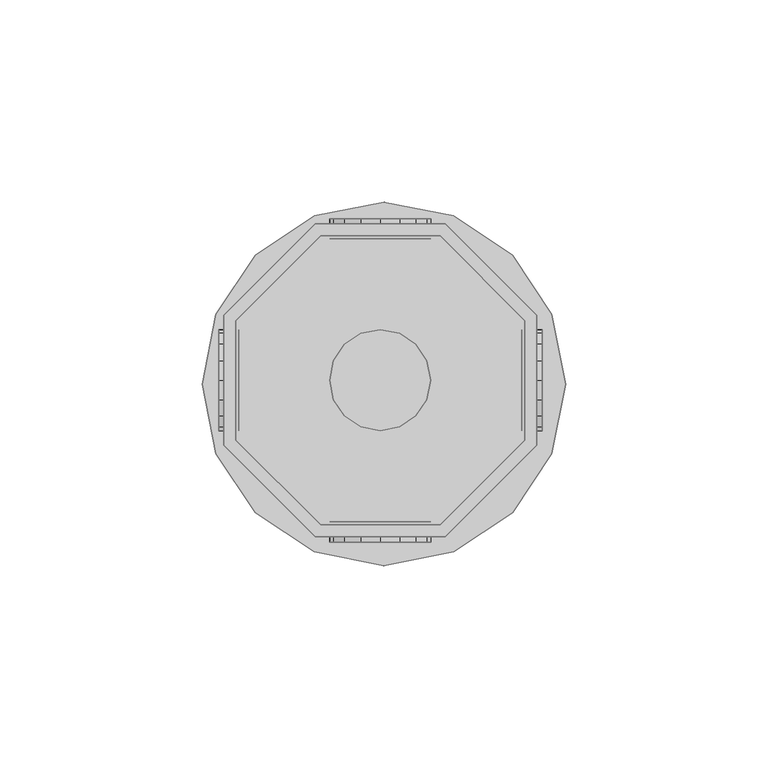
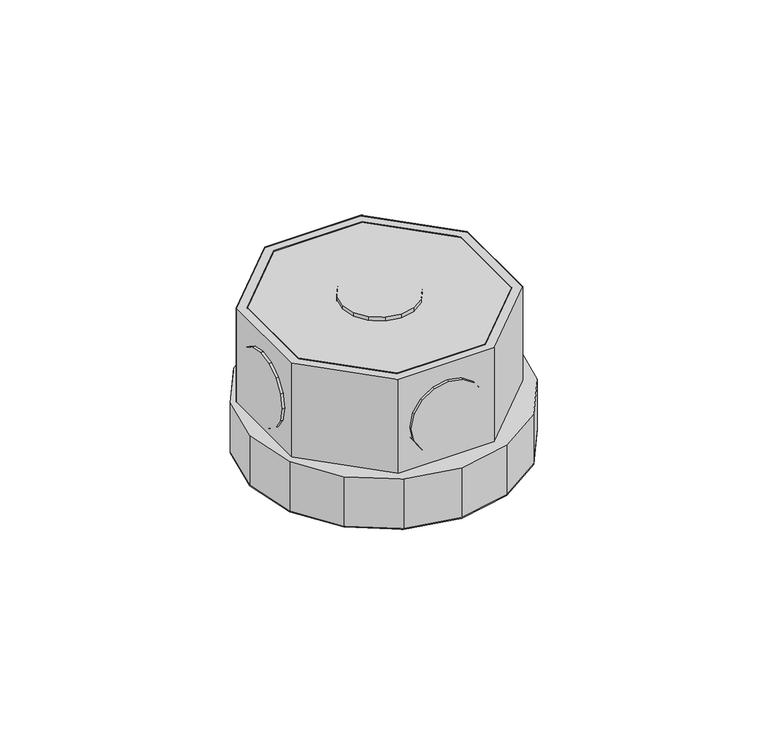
"""IFC4 building model written with IfcOpenShell, lengths in millimetres: light fixture geometry,  213590 :  213590."""

from ifc_helpers import new_model, si_unit, origin, place, context, project, spatial, triangles, source, transform, mapped, element, save


def light_fixture_066294f1(model_context):
    return source(origin(), model_context, "Body", "Tessellation", [
        triangles([(5265.0001419, 16192.9999695, 2924.5999741), (5235.4002045, 16192.9999695, 2975.400071), (5235.4002045, 16192.9999695, 2924.5999741), (5265.0001419, 16192.9999695, 2975.400071), (5266.2000687, 16118.4998657, 2924.5999741), (5234.1002838, 16118.4998657, 2975.400071), (5234.1002838, 16118.4998657, 2924.5999741), (5266.2000687, 16118.4998657, 2975.400071), (5214.3997421, 16172.0000885, 2975.400071), (5214.3997421, 16172.0000885, 2924.5999741), (5288.8998459, 16141.1996429, 2924.5999741), (5288.8998459, 16141.1996429, 2975.400071), (5214.3997421, 16142.3995697, 2975.400071), (5214.3997421, 16142.3995697, 2924.5999741), (5288.8998459, 16173.3000092, 2924.5999741), (5288.8998459, 16173.3000092, 2975.400071), (5235.4002045, 16121.4996826, 2975.400071), (5235.4002045, 16121.4996826, 2924.5999741), (5266.2000687, 16195.9997864, 2924.5999741), (5266.2000687, 16195.9997864, 2975.400071), (5265.0001419, 16121.4996826, 2924.5999741), (5265.0001419, 16121.4996826, 2975.400071), (5234.1002838, 16195.9997864, 2975.400071), (5234.1002838, 16195.9997864, 2924.5999741), (5285.900029, 16142.3995697, 2924.5999741), (5285.900029, 16142.3995697, 2975.400071), (5211.3999252, 16173.3000092, 2975.400071), (5211.3999252, 16173.3000092, 2924.5999741), (5211.3999252, 16141.1996429, 2975.400071), (5285.900029, 16172.0000885, 2975.400071), (5285.900029, 16172.0000885, 2924.5999741), (5211.3999252, 16141.1996429, 2924.5999741), (5214.3997421, 16142.3995697, 2972.3999634), (5235.4002045, 16121.4996826, 2972.3999634), (5265.0001419, 16121.4996826, 2972.3999634), (5285.900029, 16142.3995697, 2972.3999634), (5285.900029, 16172.0000885, 2972.3999634), (5265.0001419, 16192.9999695, 2972.3999634), (5235.4002045, 16192.9999695, 2972.3999634), (5214.3997421, 16172.0000885, 2972.3999634), (5211.3999252, 16173.3000092, 2942.4000504), (5234.1002838, 16195.9997864, 2942.4000504), (5266.2000687, 16195.9997864, 2942.4000504), (5288.8998459, 16173.3000092, 2942.4000504), (5288.8998459, 16141.1996429, 2942.4000504), (5266.2000687, 16118.4998657, 2942.4000504), (5234.1002838, 16118.4998657, 2942.4000504), (5211.3999252, 16141.1996429, 2942.4000504), (5233.7997208, 16114.8000916, 2942.4000504), (5209.5000412, 16139.0997711, 2942.4000504), (5219.2000305, 16124.4994995, 2942.4000504), (5206.1002487, 16156.299884, 2942.4000504), (5209.5000412, 16173.5999908, 2942.4000504), (5219.2000305, 16188.2002625, 2942.4000504), (5233.7997208, 16197.8996704, 2942.4000504), (5251.0998276, 16201.2994629, 2942.4000504), (5268.2999405, 16197.8996704, 2942.4000504), (5292.6002014, 16173.5999908, 2942.4000504), (5282.9002121, 16188.2002625, 2942.4000504), (5251.0998276, 16111.3003052, 2942.4000504), (5268.2999405, 16114.8000916, 2942.4000504), (5282.9002121, 16124.4994995, 2942.4000504), (5292.6002014, 16139.0997711, 2942.4000504), (5296.0999878, 16156.299884, 2942.4000504), (5209.5000412, 16139.0997711, 2924.5999741), (5233.7997208, 16114.8000916, 2924.5999741), (5219.2000305, 16124.4994995, 2924.5999741), (5206.1002487, 16156.299884, 2924.5999741), (5209.5000412, 16173.5999908, 2924.5999741), (5219.2000305, 16188.2002625, 2924.5999741), (5233.7997208, 16197.8996704, 2924.5999741), (5251.0998276, 16201.2994629, 2924.5999741), (5268.2999405, 16197.8996704, 2924.5999741), (5292.6002014, 16173.5999908, 2924.5999741), (5282.9002121, 16188.2002625, 2924.5999741), (5251.0998276, 16111.3003052, 2924.5999741), (5268.2999405, 16114.8000916, 2924.5999741), (5282.9002121, 16124.4994995, 2924.5999741), (5292.6002014, 16139.0997711, 2924.5999741), (5296.0999878, 16156.299884, 2924.5999741), (5238.6000092, 16197.1997131, 2952.6000092), (5245.4001755, 16197.1997131, 2945.9001274), (5241.2998444, 16197.1997131, 2948.5999626), (5237.7000641, 16197.1997131, 2957.4000069), (5250.1998825, 16197.1997131, 2944.8998978), (5238.6000092, 16197.1997131, 2962.2000046), (5255.0001709, 16197.1997131, 2945.9001274), (5241.2998444, 16197.1997131, 2966.2000511), (5258.9999268, 16197.1997131, 2948.5999626), (5245.4001755, 16197.1997131, 2968.8998863), (5261.699762, 16197.1997131, 2952.6000092), (5250.1998825, 16197.1997131, 2969.900116), (5262.7002823, 16197.1997131, 2957.4000069), (5255.0001709, 16197.1997131, 2968.8998863), (5261.699762, 16197.1997131, 2962.2000046), (5258.9999268, 16197.1997131, 2966.2000511), (5245.4001755, 16192.2000183, 2945.9001274), (5238.6000092, 16192.2000183, 2952.6000092), (5241.2998444, 16192.2000183, 2948.5999626), (5250.1998825, 16192.2000183, 2944.8998978), (5237.7000641, 16192.2000183, 2957.4000069), (5255.0001709, 16192.2000183, 2945.9001274), (5238.6000092, 16192.2000183, 2962.2000046), (5258.9999268, 16192.2000183, 2948.5999626), (5241.2998444, 16192.2000183, 2966.2000511), (5245.4001755, 16192.2000183, 2968.8998863), (5261.699762, 16192.2000183, 2952.6000092), (5250.1998825, 16192.2000183, 2969.900116), (5262.7002823, 16192.2000183, 2957.4000069), (5255.0001709, 16192.2000183, 2968.8998863), (5261.699762, 16192.2000183, 2962.2000046), (5258.9999268, 16192.2000183, 2966.2000511), (5238.6000092, 16122.1996399, 2952.6000092), (5245.4001755, 16122.1996399, 2945.9001274), (5241.2998444, 16122.1996399, 2948.5999626), (5237.7000641, 16122.1996399, 2957.4000069), (5250.1998825, 16122.1996399, 2944.8998978), (5238.6000092, 16122.1996399, 2962.2000046), (5255.0001709, 16122.1996399, 2945.9001274), (5241.2998444, 16122.1996399, 2966.2000511), (5258.9999268, 16122.1996399, 2948.5999626), (5245.4001755, 16122.1996399, 2968.8998863), (5261.699762, 16122.1996399, 2952.6000092), (5250.1998825, 16122.1996399, 2969.900116), (5262.7002823, 16122.1996399, 2957.4000069), (5255.0001709, 16122.1996399, 2968.8998863), (5261.699762, 16122.1996399, 2962.2000046), (5258.9999268, 16122.1996399, 2966.2000511), (5245.4001755, 16117.1999451, 2945.9001274), (5238.6000092, 16117.1999451, 2952.6000092), (5241.2998444, 16117.1999451, 2948.5999626), (5250.1998825, 16117.1999451, 2944.8998978), (5237.7000641, 16117.1999451, 2957.4000069), (5255.0001709, 16117.1999451, 2945.9001274), (5238.6000092, 16117.1999451, 2962.2000046), (5258.9999268, 16117.1999451, 2948.5999626), (5241.2998444, 16117.1999451, 2966.2000511), (5245.4001755, 16117.1999451, 2968.8998863), (5261.699762, 16117.1999451, 2952.6000092), (5250.1998825, 16117.1999451, 2969.900116), (5262.7002823, 16117.1999451, 2957.4000069), (5255.0001709, 16117.1999451, 2968.8998863), (5261.699762, 16117.1999451, 2962.2000046), (5258.9999268, 16117.1999451, 2966.2000511), (5215.2002747, 16152.4001221, 2945.9001274), (5215.2002747, 16145.700531, 2952.6000092), (5215.2002747, 16148.4003662, 2948.5999626), (5215.2002747, 16157.1998291, 2944.8998978), (5215.2002747, 16144.6994293, 2957.4000069), (5215.2002747, 16161.9995361, 2945.9001274), (5215.2002747, 16145.700531, 2962.2000046), (5215.2002747, 16166.1004486, 2948.5999626), (5215.2002747, 16148.4003662, 2966.2000511), (5215.2002747, 16152.4001221, 2968.8998863), (5215.2002747, 16168.8002838, 2952.6000092), (5215.2002747, 16157.1998291, 2969.900116), (5215.2002747, 16169.7002289, 2957.4000069), (5215.2002747, 16161.9995361, 2968.8998863), (5215.2002747, 16168.8002838, 2962.2000046), (5215.2002747, 16166.1004486, 2966.2000511), (5210.1999985, 16145.700531, 2952.6000092), (5210.1999985, 16152.4001221, 2945.9001274), (5210.1999985, 16148.4003662, 2948.5999626), (5210.1999985, 16144.6994293, 2957.4000069), (5210.1999985, 16157.1998291, 2944.8998978), (5210.1999985, 16145.700531, 2962.2000046), (5210.1999985, 16161.9995361, 2945.9001274), (5210.1999985, 16148.4003662, 2966.2000511), (5210.1999985, 16166.1004486, 2948.5999626), (5210.1999985, 16152.4001221, 2968.8998863), (5210.1999985, 16168.8002838, 2952.6000092), (5210.1999985, 16157.1998291, 2969.900116), (5210.1999985, 16169.7002289, 2957.4000069), (5210.1999985, 16161.9995361, 2968.8998863), (5210.1999985, 16168.8002838, 2962.2000046), (5210.1999985, 16166.1004486, 2966.2000511), (5290.1997665, 16152.4001221, 2945.9001274), (5290.1997665, 16145.700531, 2952.6000092), (5290.1997665, 16148.4003662, 2948.5999626), (5290.1997665, 16157.1998291, 2944.8998978), (5290.1997665, 16144.6994293, 2957.4000069), (5290.1997665, 16161.9995361, 2945.9001274), (5290.1997665, 16145.700531, 2962.2000046), (5290.1997665, 16166.1004486, 2948.5999626), (5290.1997665, 16148.4003662, 2966.2000511), (5290.1997665, 16152.4001221, 2968.8998863), (5290.1997665, 16168.8002838, 2952.6000092), (5290.1997665, 16157.1998291, 2969.900116), (5290.1997665, 16169.7002289, 2957.4000069), (5290.1997665, 16161.9995361, 2968.8998863), (5290.1997665, 16168.8002838, 2962.2000046), (5290.1997665, 16166.1004486, 2966.2000511), (5285.2000717, 16145.700531, 2952.6000092), (5285.2000717, 16152.4001221, 2945.9001274), (5285.2000717, 16148.4003662, 2948.5999626), (5285.2000717, 16144.6994293, 2957.4000069), (5285.2000717, 16157.1998291, 2944.8998978), (5285.2000717, 16145.700531, 2962.2000046), (5285.2000717, 16161.9995361, 2945.9001274), (5285.2000717, 16148.4003662, 2966.2000511), (5285.2000717, 16166.1004486, 2948.5999626), (5285.2000717, 16152.4001221, 2968.8998863), (5285.2000717, 16168.8002838, 2952.6000092), (5285.2000717, 16157.1998291, 2969.900116), (5285.2000717, 16169.7002289, 2957.4000069), (5285.2000717, 16161.9995361, 2968.8998863), (5285.2000717, 16168.8002838, 2962.2000046), (5285.2000717, 16166.1004486, 2966.2000511), (5245.4001755, 16145.700531, 2976.9999733), (5238.6000092, 16152.4001221, 2976.9999733), (5241.2998444, 16148.4003662, 2976.9999733), (5237.7000641, 16157.1998291, 2976.9999733), (5250.1998825, 16144.6994293, 2976.9999733), (5238.6000092, 16161.9995361, 2976.9999733), (5255.0001709, 16145.700531, 2976.9999733), (5241.2998444, 16166.1004486, 2976.9999733), (5258.9999268, 16148.4003662, 2976.9999733), (5245.4001755, 16168.8002838, 2976.9999733), (5261.699762, 16152.4001221, 2976.9999733), (5250.1998825, 16169.7002289, 2976.9999733), (5262.7002823, 16157.1998291, 2976.9999733), (5255.0001709, 16168.8002838, 2976.9999733), (5261.699762, 16161.9995361, 2976.9999733), (5258.9999268, 16166.1004486, 2976.9999733), (5238.6000092, 16152.4001221, 2971.9999878), (5245.4001755, 16145.700531, 2971.9999878), (5241.2998444, 16148.4003662, 2971.9999878), (5237.7000641, 16157.1998291, 2971.9999878), (5250.1998825, 16144.6994293, 2971.9999878), (5238.6000092, 16161.9995361, 2971.9999878), (5255.0001709, 16145.700531, 2971.9999878), (5241.2998444, 16166.1004486, 2971.9999878), (5258.9999268, 16148.4003662, 2971.9999878), (5245.4001755, 16168.8002838, 2971.9999878), (5261.699762, 16152.4001221, 2971.9999878), (5250.1998825, 16169.7002289, 2971.9999878), (5262.7002823, 16157.1998291, 2971.9999878), (5255.0001709, 16168.8002838, 2971.9999878), (5261.699762, 16161.9995361, 2971.9999878), (5258.9999268, 16166.1004486, 2971.9999878)], [[1, 2, 3], [2, 1, 4], [5, 6, 7], [6, 5, 8], [3, 9, 10], [9, 3, 2], [11, 8, 5], [8, 11, 12], [10, 13, 14], [13, 10, 9], [15, 12, 11], [12, 15, 16], [14, 17, 18], [17, 14, 13], [19, 16, 15], [16, 19, 20], [17, 21, 18], [21, 17, 22], [23, 19, 24], [19, 23, 20], [22, 25, 21], [25, 22, 26], [27, 24, 28], [24, 27, 23], [6, 13, 29], [29, 13, 27], [27, 13, 9], [27, 9, 23], [23, 9, 2], [23, 2, 4], [23, 4, 20], [20, 4, 30], [8, 17, 6], [6, 17, 13], [17, 8, 22], [12, 22, 8], [22, 12, 26], [30, 26, 12], [16, 30, 12], [20, 30, 16], [30, 1, 31], [1, 30, 4], [6, 32, 7], [32, 6, 29], [32, 14, 7], [28, 14, 32], [14, 28, 10], [24, 10, 28], [10, 24, 3], [1, 3, 24], [19, 1, 24], [31, 1, 19], [7, 18, 5], [14, 18, 7], [5, 18, 21], [5, 21, 11], [11, 21, 25], [11, 25, 31], [11, 31, 15], [15, 31, 19], [26, 31, 25], [31, 26, 30], [29, 28, 32], [28, 29, 27], [17, 33, 34], [33, 17, 13], [35, 17, 34], [17, 35, 22], [36, 22, 35], [22, 36, 26], [37, 26, 36], [26, 37, 30], [38, 30, 37], [30, 38, 4], [2, 38, 39], [38, 2, 4], [17, 9, 13], [9, 17, 22], [9, 22, 2], [2, 22, 26], [2, 26, 4], [4, 26, 30], [13, 40, 33], [40, 13, 9], [40, 34, 33], [35, 34, 40], [35, 40, 39], [35, 39, 36], [36, 39, 38], [36, 38, 37], [9, 39, 40], [39, 9, 2], [24, 41, 28], [41, 24, 42], [19, 42, 24], [42, 19, 43], [44, 19, 15], [19, 44, 43], [45, 15, 11], [15, 45, 44], [46, 11, 5], [11, 46, 45], [47, 5, 7], [5, 47, 46], [32, 47, 7], [47, 32, 48], [28, 48, 32], [48, 28, 41], [49, 50, 51], [48, 50, 49], [50, 48, 52], [41, 52, 48], [52, 41, 53], [53, 41, 54], [42, 54, 41], [54, 42, 55], [55, 42, 43], [55, 43, 56], [56, 43, 57], [57, 43, 44], [57, 44, 58], [57, 58, 59], [47, 49, 60], [49, 47, 48], [47, 60, 46], [61, 46, 60], [46, 61, 62], [46, 62, 45], [45, 62, 63], [44, 45, 63], [44, 63, 64], [44, 64, 58], [65, 66, 67], [66, 65, 32], [68, 32, 65], [32, 68, 28], [28, 68, 69], [70, 28, 69], [28, 70, 24], [71, 24, 70], [19, 24, 71], [19, 71, 72], [73, 19, 72], [19, 73, 15], [74, 15, 73], [74, 73, 75], [76, 66, 7], [32, 7, 66], [5, 76, 7], [76, 5, 77], [77, 5, 78], [11, 78, 5], [78, 11, 79], [79, 11, 15], [79, 15, 80], [80, 15, 74], [57, 75, 73], [75, 57, 59], [56, 73, 72], [73, 56, 57], [55, 72, 71], [72, 55, 56], [54, 71, 70], [71, 54, 55], [53, 70, 69], [70, 53, 54], [52, 69, 68], [69, 52, 53], [50, 68, 65], [68, 50, 52], [51, 65, 67], [65, 51, 50], [66, 51, 67], [51, 66, 49], [76, 49, 66], [49, 76, 60], [77, 60, 76], [60, 77, 61], [78, 61, 77], [61, 78, 62], [79, 62, 78], [62, 79, 63], [80, 63, 79], [63, 80, 64], [75, 58, 74], [58, 75, 59], [74, 64, 80], [64, 74, 58], [81, 82, 83], [82, 81, 84], [85, 82, 84], [85, 84, 86], [87, 85, 86], [87, 86, 88], [87, 88, 89], [89, 88, 90], [89, 90, 91], [91, 90, 92], [91, 92, 93], [93, 92, 94], [93, 94, 95], [95, 94, 96], [97, 98, 99], [98, 97, 100], [101, 98, 100], [101, 100, 102], [103, 101, 102], [103, 102, 104], [103, 104, 105], [105, 104, 106], [106, 104, 107], [106, 107, 108], [108, 107, 109], [108, 109, 110], [110, 109, 111], [110, 111, 112], [87, 104, 102], [104, 87, 89], [85, 102, 100], [102, 85, 87], [82, 100, 97], [100, 82, 85], [83, 97, 99], [97, 83, 82], [98, 83, 99], [83, 98, 81], [101, 81, 98], [81, 101, 84], [103, 84, 101], [84, 103, 86], [105, 86, 103], [86, 105, 88], [106, 88, 105], [88, 106, 90], [108, 90, 106], [90, 108, 92], [110, 92, 108], [92, 110, 94], [112, 94, 110], [94, 112, 96], [95, 112, 111], [112, 95, 96], [93, 111, 109], [111, 93, 95], [89, 107, 104], [107, 89, 91], [91, 109, 107], [109, 91, 93], [113, 114, 115], [114, 113, 116], [117, 114, 116], [117, 116, 118], [119, 117, 118], [119, 118, 120], [119, 120, 121], [121, 120, 122], [121, 122, 123], [123, 122, 124], [123, 124, 125], [125, 124, 126], [125, 126, 127], [127, 126, 128], [129, 130, 131], [130, 129, 132], [133, 130, 132], [133, 132, 134], [135, 133, 134], [135, 134, 136], [135, 136, 137], [137, 136, 138], [138, 136, 139], [138, 139, 140], [140, 139, 141], [140, 141, 142], [142, 141, 143], [142, 143, 144], [119, 136, 134], [136, 119, 121], [117, 134, 132], [134, 117, 119], [114, 132, 129], [132, 114, 117], [115, 129, 131], [129, 115, 114], [130, 115, 131], [115, 130, 113], [133, 113, 130], [113, 133, 116], [135, 116, 133], [116, 135, 118], [137, 118, 135], [118, 137, 120], [138, 120, 137], [120, 138, 122], [140, 122, 138], [122, 140, 124], [142, 124, 140], [124, 142, 126], [144, 126, 142], [126, 144, 128], [127, 144, 143], [144, 127, 128], [125, 143, 141], [143, 125, 127], [121, 139, 136], [139, 121, 123], [123, 141, 139], [141, 123, 125], [145, 146, 147], [146, 145, 148], [149, 146, 148], [149, 148, 150], [151, 149, 150], [151, 150, 152], [151, 152, 153], [153, 152, 154], [154, 152, 155], [154, 155, 156], [156, 155, 157], [156, 157, 158], [158, 157, 159], [158, 159, 160], [161, 162, 163], [162, 161, 164], [165, 162, 164], [165, 164, 166], [167, 165, 166], [167, 166, 168], [169, 167, 168], [169, 168, 170], [169, 170, 171], [171, 170, 172], [171, 172, 173], [173, 172, 174], [173, 174, 175], [175, 174, 176], [158, 176, 174], [176, 158, 160], [156, 174, 172], [174, 156, 158], [154, 172, 170], [172, 154, 156], [153, 170, 168], [170, 153, 154], [151, 168, 166], [168, 151, 153], [149, 166, 164], [166, 149, 151], [146, 164, 161], [164, 146, 149], [147, 161, 163], [161, 147, 146], [162, 147, 163], [147, 162, 145], [165, 145, 162], [145, 165, 148], [167, 148, 165], [148, 167, 150], [169, 150, 167], [150, 169, 152], [171, 152, 169], [152, 171, 155], [173, 155, 171], [155, 173, 157], [176, 159, 175], [159, 176, 160], [175, 157, 173], [157, 175, 159], [177, 178, 179], [178, 177, 180], [181, 178, 180], [181, 180, 182], [183, 181, 182], [183, 182, 184], [183, 184, 185], [185, 184, 186], [186, 184, 187], [186, 187, 188], [188, 187, 189], [188, 189, 190], [190, 189, 191], [190, 191, 192], [193, 194, 195], [194, 193, 196], [197, 194, 196], [197, 196, 198], [199, 197, 198], [199, 198, 200], [201, 199, 200], [201, 200, 202], [201, 202, 203], [203, 202, 204], [203, 204, 205], [205, 204, 206], [205, 206, 207], [207, 206, 208], [190, 208, 206], [208, 190, 192], [188, 206, 204], [206, 188, 190], [186, 204, 202], [204, 186, 188], [185, 202, 200], [202, 185, 186], [183, 200, 198], [200, 183, 185], [181, 198, 196], [198, 181, 183], [178, 196, 193], [196, 178, 181], [179, 193, 195], [193, 179, 178], [194, 179, 195], [179, 194, 177], [197, 177, 194], [177, 197, 180], [199, 180, 197], [180, 199, 182], [201, 182, 199], [182, 201, 184], [203, 184, 201], [184, 203, 187], [205, 187, 203], [187, 205, 189], [208, 191, 207], [191, 208, 192], [207, 189, 205], [189, 207, 191], [209, 210, 211], [212, 210, 209], [212, 209, 213], [214, 212, 213], [214, 213, 215], [216, 214, 215], [216, 215, 217], [216, 217, 218], [218, 217, 219], [218, 219, 220], [220, 219, 221], [220, 221, 222], [222, 221, 223], [222, 223, 224], [225, 226, 227], [226, 225, 228], [229, 226, 228], [229, 228, 230], [231, 229, 230], [231, 230, 232], [231, 232, 233], [233, 232, 234], [233, 234, 235], [235, 234, 236], [235, 236, 237], [237, 236, 238], [237, 238, 239], [239, 238, 240], [222, 240, 238], [240, 222, 224], [220, 238, 236], [238, 220, 222], [218, 236, 234], [236, 218, 220], [216, 234, 232], [234, 216, 218], [214, 232, 230], [232, 214, 216], [212, 230, 228], [230, 212, 214], [210, 228, 225], [228, 210, 212], [211, 225, 227], [225, 211, 210], [226, 211, 227], [211, 226, 209], [229, 209, 226], [209, 229, 213], [231, 213, 229], [213, 231, 215], [233, 215, 231], [215, 233, 217], [235, 217, 233], [217, 235, 219], [237, 219, 235], [219, 237, 221], [240, 223, 239], [223, 240, 224], [239, 221, 237], [221, 239, 223]], closed=False),
    ])


if __name__ == "__main__":
    model = new_model("IFC4")
    model_context = context("Model", 3, world=origin())
    ifc_project = project(units=[si_unit("LENGTHUNIT", "METRE", prefix="MILLI")], contexts=[model_context])
    site = spatial("IfcSite", under=ifc_project)
    building = spatial("IfcBuilding", under=site)
    placement = place(None, origin())
    light_fixture_shape = light_fixture_066294f1(model_context)
    element("IfcLightFixture", 1, ObjectType=" 213590 :  213590", at=placement, inside=building, context=model_context, shape_type="MappedRepresentation", body=[
        mapped(light_fixture_shape, transform((0.0, 0.0, 0.0), x_axis=(1.0, 0.0, 0.0), y_axis=(0.0, 1.0, 0.0), z_axis=(0.0, 0.0, 1.0))),
    ])
    save(model, "model.ifc")
